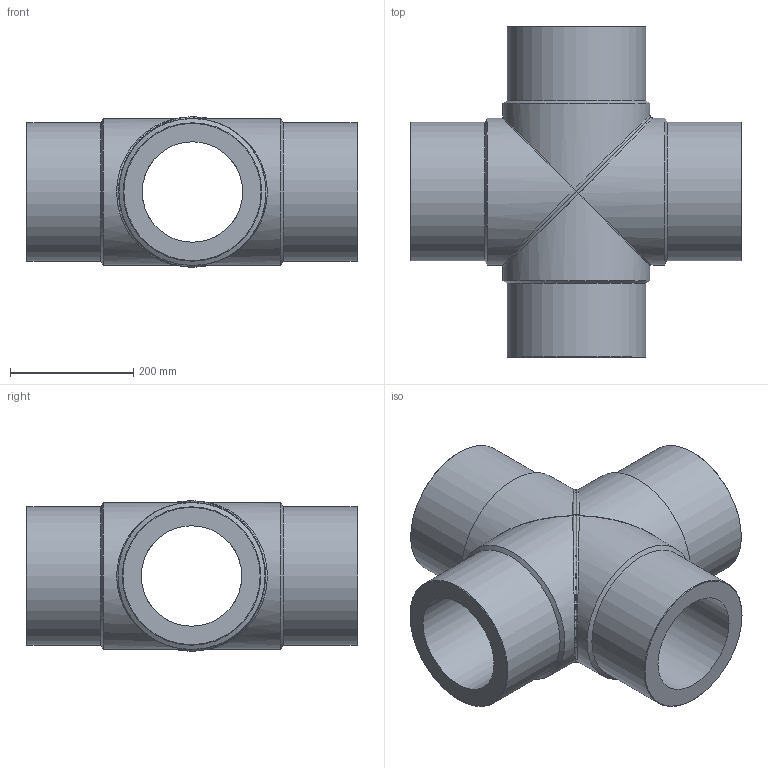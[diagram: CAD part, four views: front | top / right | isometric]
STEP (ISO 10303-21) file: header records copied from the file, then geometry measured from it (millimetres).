
FILE_DESCRIPTION(/* description */ ('Unknown'),/* implementation_level */ '2;1');
FILE_NAME(/* name */ 'CRP225H',/* time_stamp */ '2022-07-08T14:54:19+02:00',/* author */ ('Unknown'),/* organization */ ('Unknown'),/* preprocessor_version */ 'ST-DEVELOPER v18.102',/* originating_system */ 'Solid Edge',/* authorisation */ 'Unknown');
FILE_SCHEMA (('AUTOMOTIVE_DESIGN {1 0 10303 214 3 1 1}'));
Length unit declared in the file: millimetre
Products named in the file (3): CRP225H; CRP225H_mir
Assembly tree (2 placements, depth 2):
  CRP225H
    CRP225H
    CRP225H_mir
Bounding box: 538.5 x 538.5 x 243.99 mm (x, y, z)
Volume: 17031345 mm3; surface area: 1159560.2 mm2
Topology: 2 solids, 2 shells, 32 faces, 88 edges, 58 vertices
Faces by surface type: cylinder 12, cone 8, plane 6, bspline 6
Full cylindrical faces by diameter (mm): 163.4 x4, 225 x4, 239 x4
Entity records: 3479 total; most frequent: CARTESIAN_POINT 2761, DIRECTION 126, ORIENTED_EDGE 116, AXIS2_PLACEMENT_3D 63, EDGE_CURVE 58, EDGE_LOOP 58, FACE_BOUND 58, VERTEX_POINT 48
